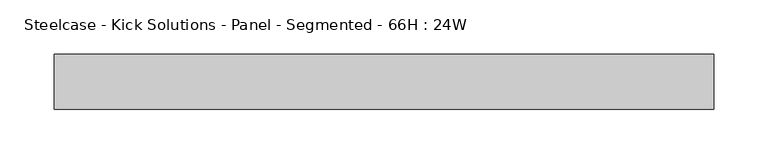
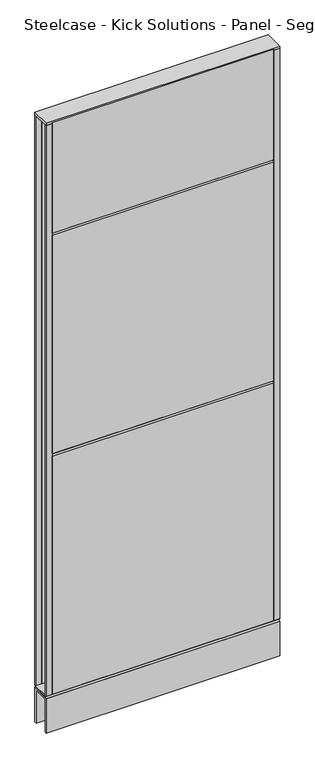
"""IFC4 building model written with IfcOpenShell, lengths in millimetres: furniture geometry, Steelcase - Kick Solutions - Panel - Segmented - 66H : 24W."""

from ifc_helpers import new_model, si_unit, frame, origin, place, context, project, spatial, polyline, outline, extrude, source, transform, mapped, element, save


def steelcase_kick_solutions_panel_segmented_66h_24w_ca15eb6e(model_context):
    return source(origin(), model_context, "Body", "SweptSolid", [
        extrude(outline(polyline([(1.5e-06, 101.600003), (-3.175, 101.600003), (-3.175, 1676.4), (1.5e-06, 1673.3188448), (1.5e-06, 101.600003)])), frame((15.8749996, 0.0, 0.0), z_axis=(1.0, 0.0, 0.0), x_axis=(0.0, 1.0, 0.0)), (0.0, 0.0, 1.0), 577.8500008),
        extrude(outline(polyline([(-50.8000015, 1374.6811552), (-50.8000015, 1679.448), (-47.625, 1676.4), (-47.625, 1371.6), (-50.8000015, 1374.6811552)])), frame((15.8749996, 0.0, 0.0), z_axis=(1.0, 0.0, 0.0), x_axis=(0.0, 1.0, 0.0)), (0.0, 0.0, 1.0), 577.8500008),
        extrude(outline(polyline([(-50.8000015, 765.0811552), (-50.8000015, 1368.5188448), (-47.625, 1371.6), (-47.625, 762.0), (-50.8000015, 765.0811552)])), frame((15.8749996, 0.0, 0.0), z_axis=(1.0, 0.0, 0.0), x_axis=(0.0, 1.0, 0.0)), (0.0, 0.0, 1.0), 577.8500008),
        extrude(outline(polyline([(-50.8000015, 101.600003), (-50.8000015, 758.9188448), (-47.625, 762.0), (-47.625, 101.600003), (-50.8000015, 101.600003)])), frame((15.8749996, 0.0, 0.0), z_axis=(1.0, 0.0, 0.0), x_axis=(0.0, 1.0, 0.0)), (0.0, 0.0, 1.0), 577.8500008),
        extrude(outline(polyline([(609.6, -3.1750015), (593.7250004, -3.1750015), (593.7250004, 0.0), (609.6, 0.0), (609.6, -3.1750015)])), frame((0.0, 0.0, 101.7169049), z_axis=(0.0, 0.0, 1.0), x_axis=(1.0, 0.0, 0.0)), (0.0, 0.0, 1.0), 1574.799997),
        extrude(outline(polyline([(15.8749996, -50.8000015), (0.0, -50.8000015), (0.0, -47.625), (15.8749996, -47.625), (15.8749996, -50.8000015)])), frame((0.0, 0.0, 101.7169049), z_axis=(0.0, 0.0, 1.0), x_axis=(1.0, 0.0, 0.0)), (0.0, 0.0, 1.0), 1574.799997),
        extrude(outline(polyline([(-50.7995075, 101.7169049), (-0.000494, 101.7169049), (-3.0583512, 98.5421458), (-47.7416503, 98.5421458), (-50.7995075, 101.7169049)])), frame((0.0, 0.0, 0.0), z_axis=(1.0, 0.0, 0.0), x_axis=(0.0, 1.0, 0.0)), (0.0, 0.0, 1.0), 609.6),
        extrude(outline(polyline([(609.6, 0.0), (609.6, -50.8000015), (0.0, -50.8000015), (0.0, 0.0), (609.6, 0.0)])), frame((0.0, 0.0, 1676.5169018), z_axis=(0.0, 0.0, 1.0), x_axis=(1.0, 0.0, 0.0)), (0.0, 0.0, 1.0), 6.35),
        extrude(outline(polyline([(15.8749996, -3.1750015), (0.0, -3.1750015), (0.0, 0.0), (15.8749996, 0.0), (15.8749996, -3.1750015)])), frame((0.0, 0.0, 101.7169049), z_axis=(0.0, 0.0, 1.0), x_axis=(1.0, 0.0, 0.0)), (0.0, 0.0, 1.0), 1574.799997),
        extrude(outline(polyline([(609.6, -50.8000015), (593.7250004, -50.8000015), (593.7250004, -47.625), (609.6, -47.625), (609.6, -50.8000015)])), frame((0.0, 0.0, 101.7169049), z_axis=(0.0, 0.0, 1.0), x_axis=(1.0, 0.0, 0.0)), (0.0, 0.0, 1.0), 1574.799997),
        extrude(outline(polyline([(-50.8000015, 95.3668927), (-47.6247484, 98.5421458), (-3.1752531, 98.5421458), (0.0, 95.3668927), (-50.8000015, 95.3668927)])), frame((0.0, 0.0, 0.0), z_axis=(1.0, 0.0, 0.0), x_axis=(0.0, 1.0, 0.0)), (0.0, 0.0, 1.0), 609.6),
        extrude(outline(polyline([(0.0, 0.0), (-5.08, 0.0), (-5.08, 90.2869018), (-45.7200015, 90.2869018), (-45.7200015, 0.0), (-50.8000015, 0.0), (-50.8000015, 95.3669018), (0.0, 95.3669018), (0.0, 0.0)])), frame((0.0, 0.0, 0.0), z_axis=(1.0, 0.0, 0.0), x_axis=(0.0, 1.0, 0.0)), (0.0, 0.0, 1.0), 609.6),
    ])


if __name__ == "__main__":
    model = new_model("IFC4")
    model_context = context("Model", 3, world=origin())
    ifc_project = project(units=[si_unit("LENGTHUNIT", "METRE", prefix="MILLI")], contexts=[model_context])
    site = spatial("IfcSite", under=ifc_project)
    building = spatial("IfcBuilding", under=site)
    placement = place(None, origin())
    steelcase_kick_solutions_panel_segmented_66h_24w_shape = steelcase_kick_solutions_panel_segmented_66h_24w_ca15eb6e(model_context)
    element("IfcFurniture", 1, ObjectType="Steelcase - Kick Solutions - Panel - Segmented - 66H : 24W", at=placement, inside=building, context=model_context, shape_type="MappedRepresentation", body=[
        mapped(steelcase_kick_solutions_panel_segmented_66h_24w_shape, transform((0.0, 0.0, 0.0), x_axis=(1.0, 0.0, 0.0), y_axis=(0.0, 1.0, 0.0), z_axis=(0.0, 0.0, 1.0))),
    ])
    save(model, "model.ifc")
